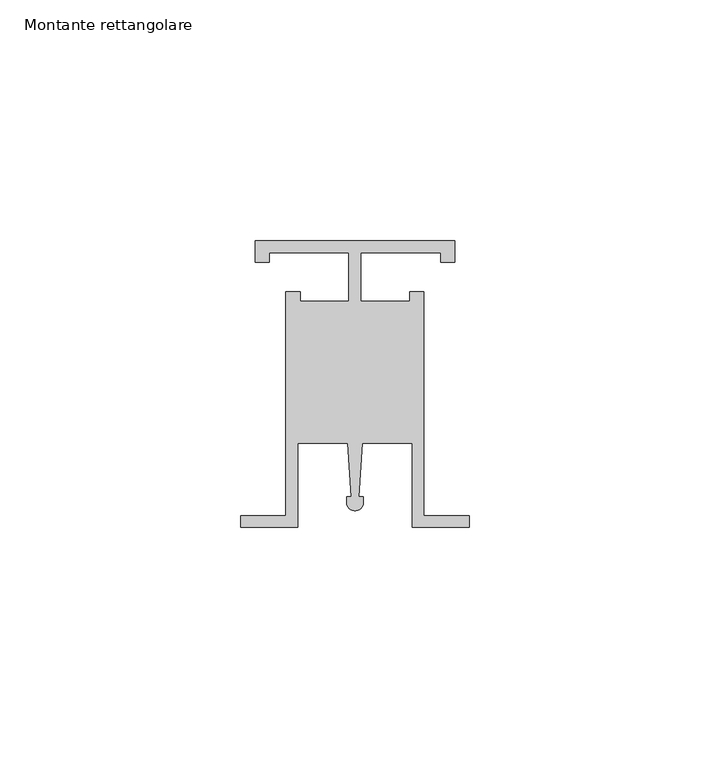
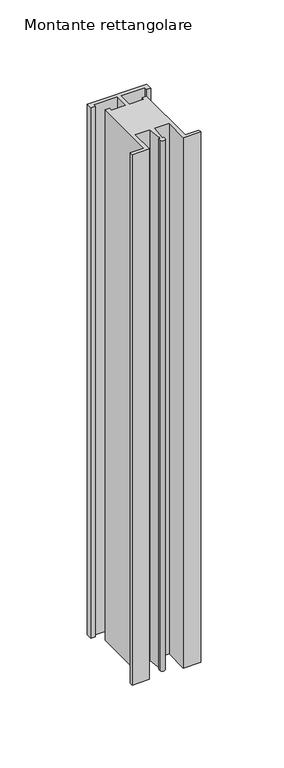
"""IFC4 building model written with IfcOpenShell, lengths in millimetres: member geometry, Montante rettangolare : Verde Profilo's Uprights."""

from ifc_helpers import new_model, si_unit, point, frame, frame_2d, origin, place, context, project, spatial, polyline, circle_curve, trimmed, segment, composite_curve, outline, extrude, source, transform, mapped, element, save


def montante_rettangolare_82bab0ab(model_context):
    return source(origin(), model_context, "Body", "SweptSolid", [
        extrude(outline(composite_curve([segment(polyline([(-3.0, 0.0), (-3.0, -4.4643434), (-5.9763281, -4.4643434), (-5.9763281, -2.4801246), (-22.5192241, -2.4801246), (-22.5192241, -12.5992217), (-12.4008018, -12.5992217), (-12.4008018, -10.6150029), (-9.4244736, -10.6150029), (-9.4244736, -57.1992491), (0.0, -57.1992491), (0.0, -59.5229914), (-11.9045983, -59.5229914), (-11.9045983, -42.1200913), (-22.2878429, -42.1200913), (-23.0155567, -53.2310496), (-22.0219337, -53.2310496), (-22.0219337, -54.4070013)]), True, "CONTINUOUS"), segment(trimmed(circle_curve(frame_2d((-23.7595941, -54.4070013)), 1.7376604), [point((-22.0219337, -54.4070013))], [point((-25.4972545, -54.4070013))], False, "CARTESIAN"), True, "CONTINUOUS"), segment(polyline([(-25.4972545, -54.4070013), (-25.4972545, -53.2310496), (-24.5036314, -53.2310496), (-25.2313452, -42.1200913), (-35.6145898, -42.1200913), (-35.6145898, -59.5229914), (-47.5191881, -59.5229914), (-47.5191881, -57.1992491), (-38.0947145, -57.1992491), (-38.0947145, -10.6150029), (-35.1183863, -10.6150029), (-35.1183863, -12.5992217), (-24.999964, -12.5992217), (-24.999964, -2.4801246), (-41.54286, -2.4801246), (-41.54286, -4.4643434), (-44.5191881, -4.4643434), (-44.5191881, 0.0), (-3.0, 0.0)]), True, "CONTINUOUS")], self_intersect=False)), frame((0.0, 0.0, -390.3770182), z_axis=(0.0, 0.0, 1.0), x_axis=(1.0, 0.0, 0.0)), (0.0, 0.0, 1.0), 390.3770182),
    ])


if __name__ == "__main__":
    model = new_model("IFC4")
    model_context = context("Model", 3, world=origin())
    ifc_project = project(units=[si_unit("LENGTHUNIT", "METRE", prefix="MILLI")], contexts=[model_context])
    site = spatial("IfcSite", under=ifc_project)
    building = spatial("IfcBuilding", under=site)
    placement = place(None, origin())
    montante_rettangolare_shape = montante_rettangolare_82bab0ab(model_context)
    element("IfcMember", 1, ObjectType="Montante rettangolare : Verde Profilo's Uprights", at=placement, inside=building, context=model_context, shape_type="MappedRepresentation", body=[
        mapped(montante_rettangolare_shape, transform((0.0, 0.0, 0.0), x_axis=(1.0, 0.0, 0.0), y_axis=(0.0, 1.0, 0.0), z_axis=(0.0, 0.0, 1.0))),
    ])
    save(model, "model.ifc")
